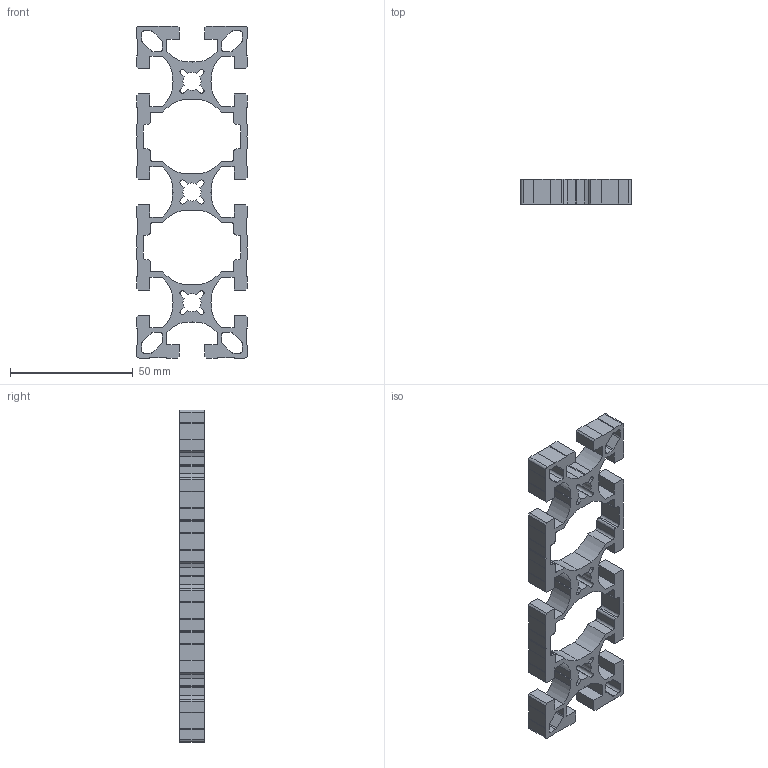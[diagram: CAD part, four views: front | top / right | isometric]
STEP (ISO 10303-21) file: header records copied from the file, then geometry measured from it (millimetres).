
FILE_DESCRIPTION((''),'2;1');
FILE_NAME('PR045135P','2002-12-27T',('Lipro doo'),('Lipro d.o.o.'),'PRO/ENGINEER BY PARAMETRIC TECHNOLOGY CORPORATION, 2001150','PRO/ENGINEER BY PARAMETRIC TECHNOLOGY CORPORATION, 2001150','');
FILE_SCHEMA(('CONFIG_CONTROL_DESIGN'));
Length unit declared in the file: millimetre
Products named in the file (1): PR045135P
Bounding box: 45 x 10 x 135 mm (x, y, z)
Volume: 20571.2 mm3; surface area: 15994.6 mm2
Topology: 1 solids, 1 shells, 366 faces, 1092 edges, 728 vertices
Faces by surface type: plane 266, cylinder 100
Entity records: 12310 total; most frequent: CARTESIAN_POINT 2186, ORIENTED_EDGE 2184, DIRECTION 2024, EDGE_CURVE 1092, VECTOR 892, LINE 892, VERTEX_POINT 728, AXIS2_PLACEMENT_3D 566
